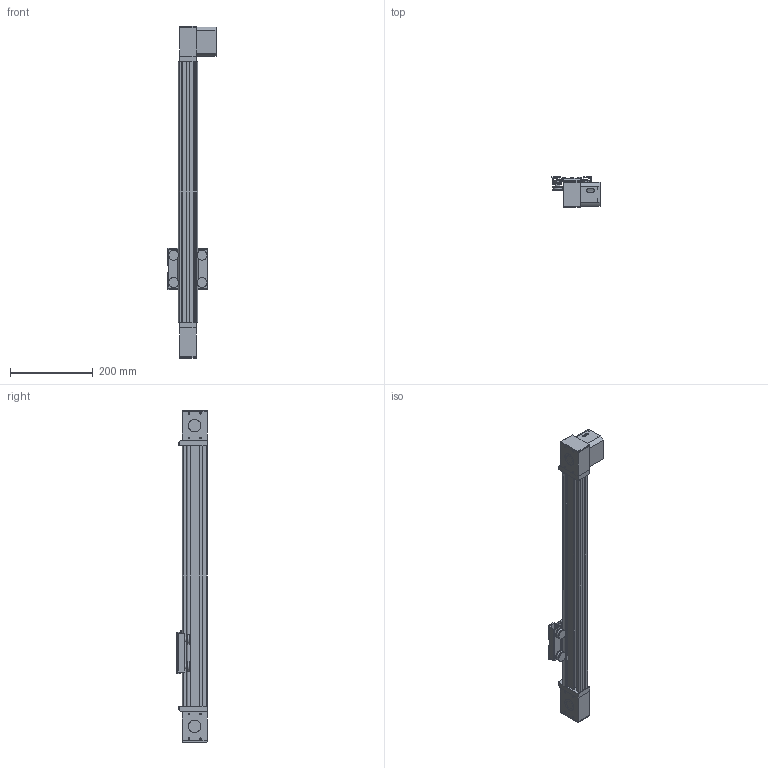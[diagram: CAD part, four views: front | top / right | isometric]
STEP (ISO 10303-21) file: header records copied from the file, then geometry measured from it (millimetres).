
FILE_DESCRIPTION (( 'STEP AP214' ), '1' );
FILE_NAME ('BLS3060B.STEP', '2021-07-12T00:07:38', ( '' ), ( '' ), 'SwSTEP 2.0', 'SolidWorks 2019', '' );
FILE_SCHEMA (( 'AUTOMOTIVE_DESIGN' ));
Length unit declared in the file: millimetre
Products named in the file (7): BLS3060Bレール; BLS3060B儌乕僞僇僢僾; BLS3060Bケース2; BLS3060Bキャリッジ; BLS3060B; BLS3060B_ﾍﾞｱﾘﾝｸﾞｶﾊﾞｰ; BLS3060Bケース1
Assembly tree (8 placements, depth 2):
  BLS3060B
    BLS3060Bレール
    BLS3060Bケース1
    BLS3060Bケース2
    BLS3060B儌乕僞僇僢僾
    BLS3060Bキャリッジ
    BLS3060B_ﾍﾞｱﾘﾝｸﾞｶﾊﾞｰ  x3
Bounding box: 116 x 73 x 802 mm (x, y, z)
Volume: 1105409.7 mm3; surface area: 554975.4 mm2
Topology: 18 solids, 18 shells, 636 faces, 1544 edges, 998 vertices
Faces by surface type: plane 386, cylinder 153, cone 92, torus 5
Full cylindrical faces by diameter (mm): 3 x1, 3.3 x16, 4.134 x4, 4.2 x4, 4.5 x4, 5.5 x5, 6.647 x4, 6.8 x2, 8 x16, 9.5 x4, 10 x4, 12 x5, 12.3 x4, 17 x4, 20 x3, 24 x8, 28 x1, 30 x5, 50 x1
Entity records: 17974 total; most frequent: CARTESIAN_POINT 3345, DIRECTION 2872, ORIENTED_EDGE 2680, EDGE_CURVE 1340, AXIS2_PLACEMENT_3D 1005, VERTEX_POINT 946, EDGE_LOOP 880, LINE 862
